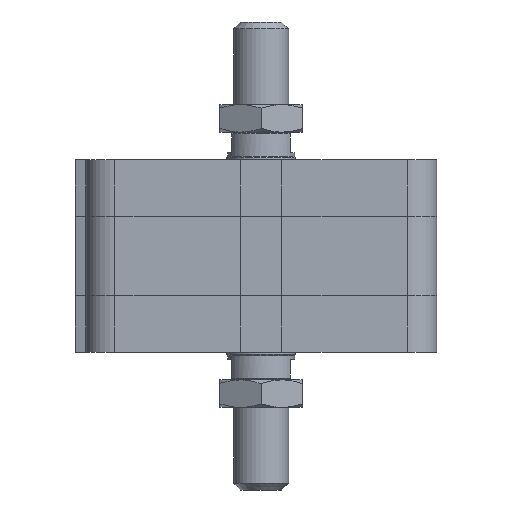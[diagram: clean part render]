
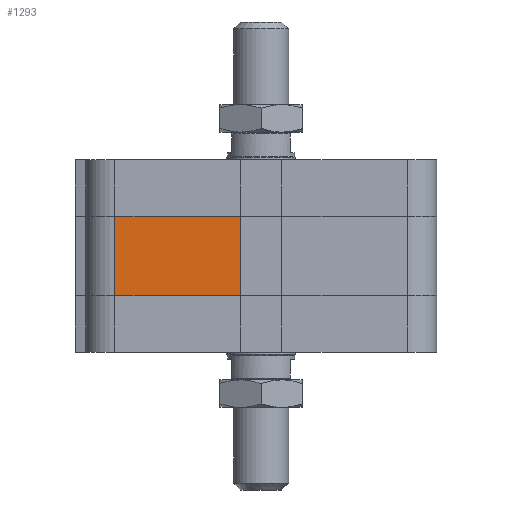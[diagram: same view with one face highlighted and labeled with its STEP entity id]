
A CAD part, left-side view. The second image highlights one B-rep face of the part: STEP entity #1293.
In plain terms, the highlighted planar face has unit normal (-1, 0, 0).
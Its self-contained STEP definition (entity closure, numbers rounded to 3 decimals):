
#1204=CARTESIAN_POINT('',(-51.0,42.5,16.5));
#1205=VERTEX_POINT('',#1204);
#1213=CARTESIAN_POINT('',(-51.0,42.5,39.5));
#1214=VERTEX_POINT('',#1213);
#1215=CARTESIAN_POINT('',(-51.0,42.5,16.5));
#1216=DIRECTION('',(0.0,0.0,1.0));
#1217=VECTOR('',#1216,23.);
#1218=LINE('',#1215,#1217);
#1219=EDGE_CURVE('',#1205,#1214,#1218,.T.);
#1263=CARTESIAN_POINT('',(-51.,6.,0.0));
#1264=DIRECTION('',(-1.0,0.0,0.0));
#1265=DIRECTION('',(0.0,0.0,1.0));
#1266=AXIS2_PLACEMENT_3D('',#1263,#1264,#1265);
#1267=PLANE('',#1266);
#1268=CARTESIAN_POINT('',(-51.,6.,16.5));
#1269=VERTEX_POINT('',#1268);
#1270=CARTESIAN_POINT('',(-51.0,42.5,16.5));
#1271=DIRECTION('',(0.0,-1.0,0.0));
#1272=VECTOR('',#1271,36.5);
#1273=LINE('',#1270,#1272);
#1274=EDGE_CURVE('',#1205,#1269,#1273,.T.);
#1275=ORIENTED_EDGE('',*,*,#1274,.T.);
#1276=CARTESIAN_POINT('',(-51.,6.,39.5));
#1277=VERTEX_POINT('',#1276);
#1278=CARTESIAN_POINT('',(-51.,6.,16.5));
#1279=DIRECTION('',(0.0,0.0,1.0));
#1280=VECTOR('',#1279,23.);
#1281=LINE('',#1278,#1280);
#1282=EDGE_CURVE('',#1269,#1277,#1281,.T.);
#1283=ORIENTED_EDGE('',*,*,#1282,.T.);
#1284=CARTESIAN_POINT('',(-51.0,42.5,39.5));
#1285=DIRECTION('',(0.0,-1.0,0.0));
#1286=VECTOR('',#1285,36.5);
#1287=LINE('',#1284,#1286);
#1288=EDGE_CURVE('',#1214,#1277,#1287,.T.);
#1289=ORIENTED_EDGE('',*,*,#1288,.F.);
#1290=ORIENTED_EDGE('',*,*,#1219,.F.);
#1291=EDGE_LOOP('',(#1275,#1283,#1289,#1290));
#1292=FACE_OUTER_BOUND('',#1291,.T.);
#1293=ADVANCED_FACE('',(#1292),#1267,.T.);
